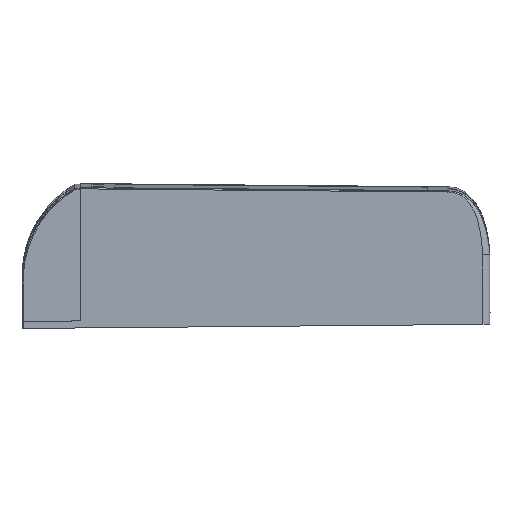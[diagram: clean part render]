
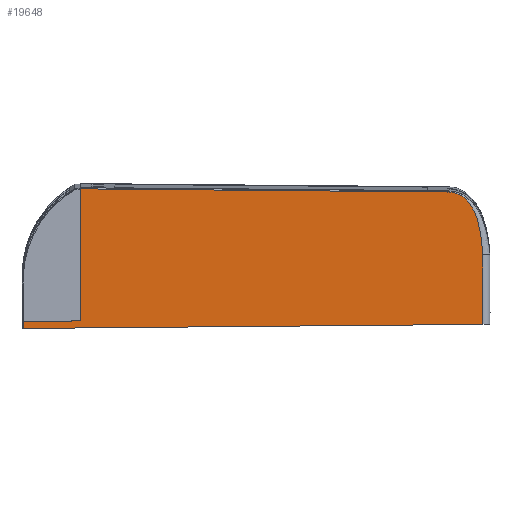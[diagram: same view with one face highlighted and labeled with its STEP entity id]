
A CAD part, top view. The second image highlights one B-rep face of the part: STEP entity #19648.
In plain terms, the highlighted planar face has unit normal (0.009, -0.018, 1) as drawn and (0.009, 0, 1) by its records, which use the part's own axes.
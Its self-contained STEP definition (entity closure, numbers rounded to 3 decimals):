
#16153=CARTESIAN_POINT('',(-73.956,-10.042,
38.497));
#16155=DIRECTION('',(1.,0.009,-0.009));
#16156=VECTOR('',#16155,130.725);
#16157=CARTESIAN_POINT('',(-73.956,-10.042,
38.497));
#16158=LINE('',#16157,#16156);
#16506=CARTESIAN_POINT('',(46.745,28.73,37.444));
#16518=CARTESIAN_POINT('',(56.756,10.845,37.357));
#16764=DIRECTION('',(0.,1.,0.));
#16765=VECTOR('',#16764,19.747);
#16766=CARTESIAN_POINT('',(56.759,-8.901,
37.357));
#16767=LINE('',#16766,#16765);
#16772=DIRECTION('',(1.,0.009,-0.009));
#16773=VECTOR('',#16772,16.233);
#16774=CARTESIAN_POINT('',(-73.956,-8.042,
38.497));
#16775=LINE('',#16774,#16773);
#16776=DIRECTION('',(0.,1.,0.));
#16777=VECTOR('',#16776,37.543);
#16778=CARTESIAN_POINT('',(-57.724,-7.901,
38.356));
#16779=LINE('',#16778,#16777);
#16780=DIRECTION('',(1.,-0.009,-0.009));
#16781=VECTOR('',#16780,104.477);
#16782=CARTESIAN_POINT('',(-57.724,29.642,
38.356));
#16783=LINE('',#16782,#16781);
#16784=CARTESIAN_POINT('',(46.745,28.73,37.444));
#16785=CARTESIAN_POINT('',(46.787,28.736,37.444));
#16786=CARTESIAN_POINT('',(46.876,28.744,37.443));
#16787=CARTESIAN_POINT('',(47.027,28.743,37.442));
#16788=CARTESIAN_POINT('',(47.194,28.729,37.44));
#16789=CARTESIAN_POINT('',(47.377,28.704,37.439));
#16790=CARTESIAN_POINT('',(47.576,28.676,37.437));
#16791=CARTESIAN_POINT('',(47.794,28.643,37.435));
#16792=CARTESIAN_POINT('',(48.033,28.604,37.433));
#16793=CARTESIAN_POINT('',(48.297,28.558,37.43));
#16794=CARTESIAN_POINT('',(48.589,28.498,37.428));
#16795=CARTESIAN_POINT('',(48.911,28.418,37.425));
#16796=CARTESIAN_POINT('',(49.265,28.301,37.422));
#16797=CARTESIAN_POINT('',(49.649,28.142,37.419));
#16798=CARTESIAN_POINT('',(50.064,27.941,37.415));
#16799=CARTESIAN_POINT('',(50.516,27.686,37.411));
#16800=CARTESIAN_POINT('',(51.016,27.382,37.407));
#16801=CARTESIAN_POINT('',(51.549,26.977,37.402));
#16802=CARTESIAN_POINT('',(52.101,26.453,37.397));
#16803=CARTESIAN_POINT('',(52.673,25.818,37.392));
#16804=CARTESIAN_POINT('',(53.273,25.047,37.387));
#16805=CARTESIAN_POINT('',(53.864,24.1,37.382));
#16806=CARTESIAN_POINT('',(54.442,22.971,37.377));
#16807=CARTESIAN_POINT('',(54.995,21.615,37.372));
#16808=CARTESIAN_POINT('',(55.477,20.013,37.368));
#16809=CARTESIAN_POINT('',(55.894,18.145,37.364));
#16810=CARTESIAN_POINT('',(56.219,15.998,37.361));
#16811=CARTESIAN_POINT('',(56.472,13.594,37.359));
#16812=CARTESIAN_POINT('',(56.66,11.793,37.357));
#16813=CARTESIAN_POINT('',(56.756,10.845,37.357));
#16821=DIRECTION('',(0.,-1.,0.));
#16822=VECTOR('',#16821,2.);
#16823=CARTESIAN_POINT('',(-73.956,-8.042,
38.497));
#16824=LINE('',#16823,#16822);
#18015=VERTEX_POINT('',#16153);
#18016=CARTESIAN_POINT('',(56.759,-8.901,
37.357));
#18017=VERTEX_POINT('',#18016);
#18121=VERTEX_POINT('',#16506);
#18122=CARTESIAN_POINT('',(-57.724,29.642,
38.356));
#18123=VERTEX_POINT('',#18122);
#18124=VERTEX_POINT('',#16518);
#18144=CARTESIAN_POINT('',(-73.956,-8.042,
38.497));
#18145=VERTEX_POINT('',#18144);
#18146=CARTESIAN_POINT('',(-57.724,-7.901,
38.356));
#18147=VERTEX_POINT('',#18146);
#19631=CARTESIAN_POINT('',(-74.258,29.955,
38.5));
#19632=DIRECTION('',(-0.009,0.,-1.));
#19633=DIRECTION('',(-1.,0.,0.009));
#19634=AXIS2_PLACEMENT_3D('',#19631,#19632,#19633);
#19635=PLANE('',#19634);
#19637=ORIENTED_EDGE('',*,*,#19636,.F.);
#19639=ORIENTED_EDGE('',*,*,#19638,.T.);
#19641=ORIENTED_EDGE('',*,*,#19640,.T.);
#19642=ORIENTED_EDGE('',*,*,#18960,.T.);
#19643=ORIENTED_EDGE('',*,*,#19096,.T.);
#19644=ORIENTED_EDGE('',*,*,#19623,.F.);
#19645=ORIENTED_EDGE('',*,*,#18577,.F.);
#19646=EDGE_LOOP('',(#19637,#19639,#19641,#19642,#19643,#19644,#19645));
#19647=FACE_OUTER_BOUND('',#19646,.F.);
#19648=ADVANCED_FACE('',(#19647),#19635,.F.);
#16814=B_SPLINE_CURVE_WITH_KNOTS('',3,(#16784,#16785,#16786,#16787,#16788,
#16789,#16790,#16791,#16792,#16793,#16794,#16795,#16796,#16797,#16798,#16799,
#16800,#16801,#16802,#16803,#16804,#16805,#16806,#16807,#16808,#16809,#16810,
#16811,#16812,#16813),.UNSPECIFIED.,.F.,.F.,(4,1,1,1,1,1,1,1,1,1,1,1,1,1,1,1,1,
1,1,1,1,1,1,1,1,1,1,4),(0.,0.037,0.074,
0.111,0.148,0.185,0.222,
0.259,0.296,0.333,0.37,
0.407,0.444,0.481,0.519,
0.556,0.593,0.63,0.667,
0.704,0.741,0.778,0.815,
0.852,0.889,0.926,0.963,1.),
.UNSPECIFIED.);
#18577=EDGE_CURVE('',#18015,#18017,#16158,.T.);
#18960=EDGE_CURVE('',#18123,#18121,#16783,.T.);
#19096=EDGE_CURVE('',#18121,#18124,#16814,.T.);
#19623=EDGE_CURVE('',#18017,#18124,#16767,.T.);
#19636=EDGE_CURVE('',#18145,#18015,#16824,.T.);
#19638=EDGE_CURVE('',#18145,#18147,#16775,.T.);
#19640=EDGE_CURVE('',#18147,#18123,#16779,.T.);
